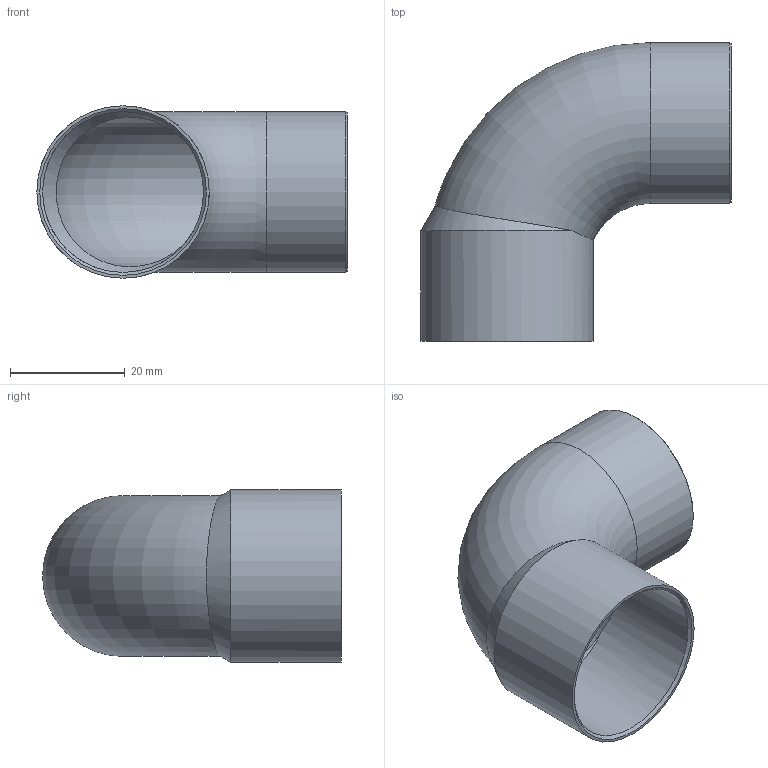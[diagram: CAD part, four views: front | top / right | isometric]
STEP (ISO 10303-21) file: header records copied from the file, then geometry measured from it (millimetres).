
FILE_DESCRIPTION(/* description */ (''),/* implementation_level */ '2;1');
FILE_NAME(/* name */ '1509228(0)MD25.stp',/* time_stamp */ '2023-04-06T13:20:59+02:00',/* author */ ('vondel'),/* organization */ (''),/* preprocessor_version */ 'ST-DEVELOPER v19.2',/* originating_system */ 'Autodesk Inventor 2023',/* authorisation */ '');
FILE_SCHEMA (('CONFIG_CONTROL_DESIGN'));
Length unit declared in the file: millimetre
Products named in the file (1): 1509228(2)
Bounding box: 54 x 52 x 30 mm (x, y, z)
Volume: 5751.7 mm3; surface area: 11669.2 mm2
Topology: 1 solids, 1 shells, 12 faces, 25 edges, 15 vertices
Faces by surface type: cone 4, cylinder 4, plane 2, torus 2
Full cylindrical faces by diameter (mm): 26 x1, 28 x2, 30 x1
Entity records: 444 total; most frequent: CARTESIAN_POINT 140, DIRECTION 58, ORIENTED_EDGE 50, AXIS2_PLACEMENT_3D 26, EDGE_CURVE 25, VERTEX_POINT 15, EDGE_LOOP 14, CIRCLE 13
